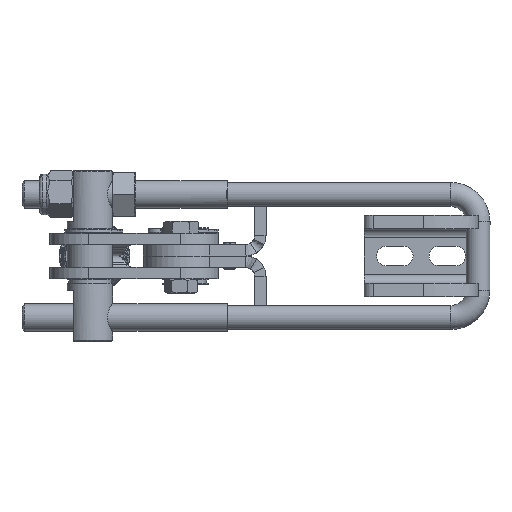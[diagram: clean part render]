
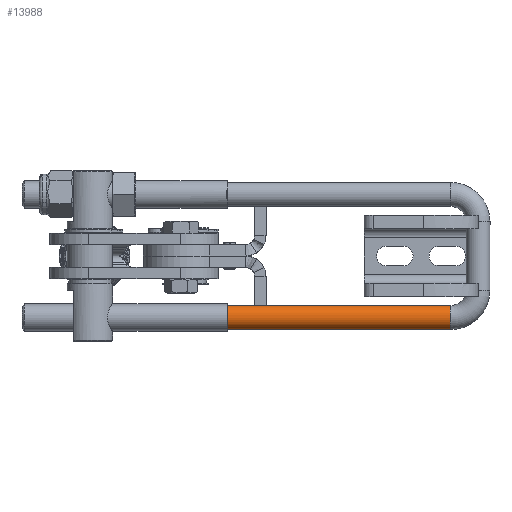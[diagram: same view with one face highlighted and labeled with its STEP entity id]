
A CAD part, left-side view. The second image highlights one B-rep face of the part: STEP entity #13988.
In plain terms, the highlighted cylindrical face has radius 5.25 mm (diameter 10.5 mm), a partial arc.
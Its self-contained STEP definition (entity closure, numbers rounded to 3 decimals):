
#1512 = VERTEX_POINT ( 'NONE', #4313 ) ;
#4095 = DIRECTION ( 'NONE',  ( 1., 0., 0. ) ) ;
#4296 = VERTEX_POINT ( 'NONE', #9452 ) ;
#4313 = CARTESIAN_POINT ( 'NONE',  ( 12., 0., 21.75 ) ) ;
#4481 = CYLINDRICAL_SURFACE ( 'NONE', #6126, 5.25 ) ;
#4607 = CARTESIAN_POINT ( 'NONE',  ( 12., 0., 27. ) ) ;
#5134 = CARTESIAN_POINT ( 'NONE',  ( 12., 0., 32.25 ) ) ;
#5434 = DIRECTION ( 'NONE',  ( 0., 0., 1. ) ) ;
#5665 = ORIENTED_EDGE ( 'NONE', *, *, #10522, .T. ) ;
#5681 = CARTESIAN_POINT ( 'NONE',  ( 12., 0., 21.75 ) ) ;
#5770 = AXIS2_PLACEMENT_3D ( 'NONE', #6930, #22114, #5434 ) ;
#6126 = AXIS2_PLACEMENT_3D ( 'NONE', #4607, #6713, #6219 ) ;
#6219 = DIRECTION ( 'NONE',  ( 0., 0., -1. ) ) ;
#6582 = FACE_OUTER_BOUND ( 'NONE', #20994, .T. ) ;
#6713 = DIRECTION ( 'NONE',  ( 1., 0., 0. ) ) ;
#6930 = CARTESIAN_POINT ( 'NONE',  ( 12., 0., 27. ) ) ;
#7238 = EDGE_CURVE ( 'NONE', #22197, #18028, #19241, .T. ) ;
#7931 = DIRECTION ( 'NONE',  ( 0., 0., -1. ) ) ;
#9452 = CARTESIAN_POINT ( 'NONE',  ( 12., 0., 32.25 ) ) ;
#9716 = CIRCLE ( 'NONE', #5770, 5.25 ) ;
#10522 = EDGE_CURVE ( 'NONE', #1512, #18028, #11723, .T. ) ;
#10592 = AXIS2_PLACEMENT_3D ( 'NONE', #21011, #4095, #7931 ) ;
#10612 = ORIENTED_EDGE ( 'NONE', *, *, #16746, .F. ) ;
#11723 = LINE ( 'NONE', #5681, #15780 ) ;
#13048 = CARTESIAN_POINT ( 'NONE',  ( 110., 0., 21.75 ) ) ;
#13093 = DIRECTION ( 'NONE',  ( 1., 0., 0. ) ) ;
#13988 = ADVANCED_FACE ( 'NONE', ( #6582 ), #4481, .T. ) ;
#15780 = VECTOR ( 'NONE', #13093, 1000. ) ;
#16138 = ORIENTED_EDGE ( 'NONE', *, *, #17483, .F. ) ;
#16605 = CARTESIAN_POINT ( 'NONE',  ( 110., 0., 32.25 ) ) ;
#16746 = EDGE_CURVE ( 'NONE', #4296, #22197, #17510, .T. ) ;
#17483 = EDGE_CURVE ( 'NONE', #1512, #4296, #9716, .T. ) ;
#17510 = LINE ( 'NONE', #5134, #17972 ) ;
#17972 = VECTOR ( 'NONE', #20557, 1000. ) ;
#18028 = VERTEX_POINT ( 'NONE', #13048 ) ;
#19241 = CIRCLE ( 'NONE', #10592, 5.25 ) ;
#20557 = DIRECTION ( 'NONE',  ( 1., 0., 0. ) ) ;
#20994 = EDGE_LOOP ( 'NONE', ( #10612, #16138, #5665, #21816 ) ) ;
#21011 = CARTESIAN_POINT ( 'NONE',  ( 110., 0., 27. ) ) ;
#21816 = ORIENTED_EDGE ( 'NONE', *, *, #7238, .F. ) ;
#22114 = DIRECTION ( 'NONE',  ( -1., 0., 0. ) ) ;
#22197 = VERTEX_POINT ( 'NONE', #16605 ) ;
